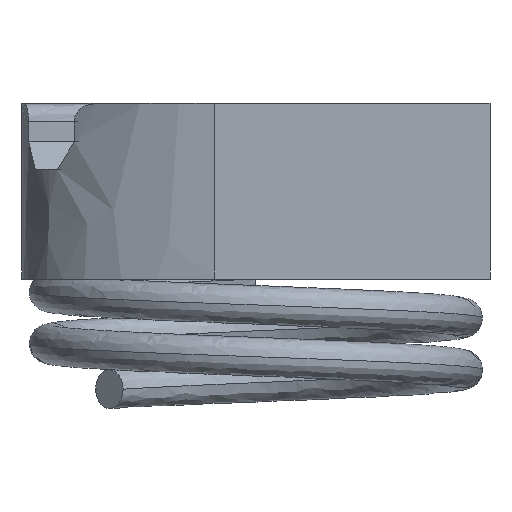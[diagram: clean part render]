
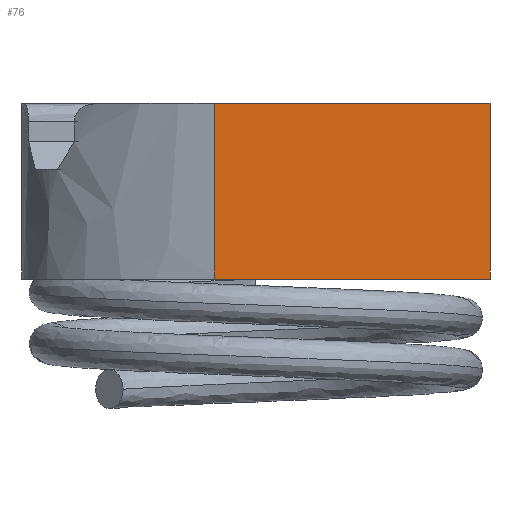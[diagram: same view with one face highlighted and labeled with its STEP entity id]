
A CAD part, left-side view. The second image highlights one B-rep face of the part: STEP entity #76.
In plain terms, the highlighted planar face has unit normal (-1, 0, 0).
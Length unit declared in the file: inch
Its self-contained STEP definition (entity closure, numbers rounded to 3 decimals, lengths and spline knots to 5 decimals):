
#76=ADVANCED_FACE('',(#196),#197,.T.);
#196=FACE_OUTER_BOUND('',#357,.T.);
#197=PLANE('',#358);
#357=EDGE_LOOP('',(#2311,#2312,#2313,#2314));
#358=AXIS2_PLACEMENT_3D('',#2315,#2316,#2317);
#2311=ORIENTED_EDGE('',*,*,#2680,.T.);
#2312=ORIENTED_EDGE('',*,*,#2681,.F.);
#2313=ORIENTED_EDGE('',*,*,#2682,.T.);
#2314=ORIENTED_EDGE('',*,*,#2683,.T.);
#2315=CARTESIAN_POINT('',(0.,0.,0.18761));
#2316=DIRECTION('',(-1.0,0.0,0.0));
#2317=DIRECTION('',(0.0,0.0,1.0));
#2680=EDGE_CURVE('',#2839,#2840,#2841,.T.);
#2681=EDGE_CURVE('',#2842,#2840,#2843,.T.);
#2682=EDGE_CURVE('',#2842,#2844,#2845,.T.);
#2683=EDGE_CURVE('',#2844,#2839,#2846,.T.);
#2839=VERTEX_POINT('',#3070);
#2840=VERTEX_POINT('',#3071);
#2841=B_SPLINE_CURVE_WITH_KNOTS('',3,(#3072,#3073,#3074,#3075,#3076,#3077),.UNSPECIFIED.,.F.,.F.,(4,2,4),(0.0,0.39593,0.47522),.UNSPECIFIED.);
#2842=VERTEX_POINT('',#3078);
#2843=LINE('',#3079,#3080);
#2844=VERTEX_POINT('',#3081);
#2845=LINE('',#3082,#3083);
#2846=LINE('',#3084,#3085);
#3070=CARTESIAN_POINT('',(0.,0.58887,0.37522));
#3071=CARTESIAN_POINT('',(0.,0.58887,0.));
#3072=CARTESIAN_POINT('',(0.,0.58887,0.42522));
#3073=CARTESIAN_POINT('',(0.,0.58887,0.29324));
#3074=CARTESIAN_POINT('',(0.,0.58887,0.16126));
#3075=CARTESIAN_POINT('',(0.,0.58887,0.00286));
#3076=CARTESIAN_POINT('',(0.,0.58887,-0.02357));
#3077=CARTESIAN_POINT('',(0.,0.58887,-0.05));
#3078=CARTESIAN_POINT('',(0.,0.,0.));
#3079=CARTESIAN_POINT('',(0.,0.,0.));
#3080=VECTOR('',#3677,1.);
#3081=CARTESIAN_POINT('',(0.,0.,0.37522));
#3082=CARTESIAN_POINT('',(0.,0.,0.));
#3083=VECTOR('',#3678,1.);
#3084=CARTESIAN_POINT('',(0.,0.,0.37522));
#3085=VECTOR('',#3679,1.);
#3677=DIRECTION('',(0.0,1.0,0.0));
#3678=DIRECTION('',(0.0,0.0,1.0));
#3679=DIRECTION('',(0.0,1.0,0.0));
